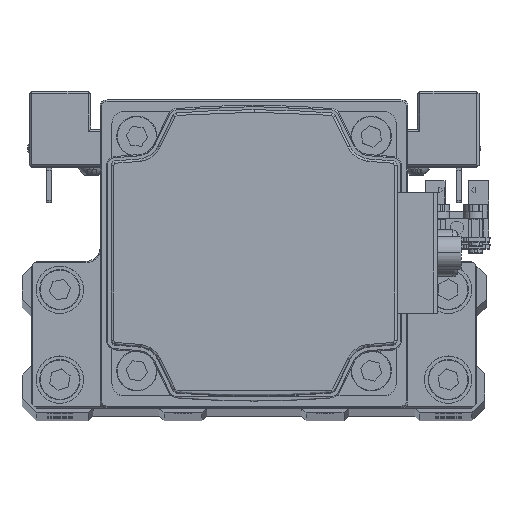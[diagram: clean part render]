
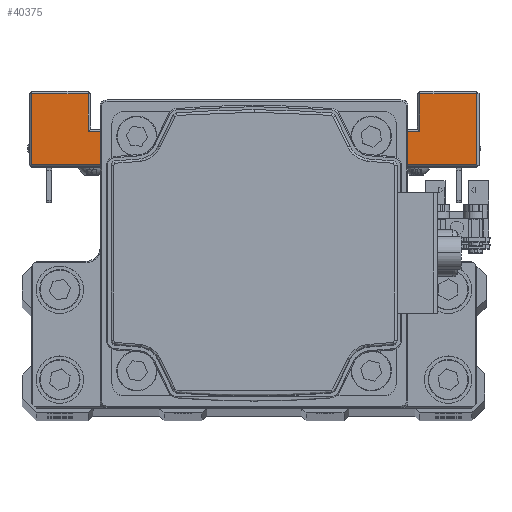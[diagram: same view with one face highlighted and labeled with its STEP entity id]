
A CAD part, top view. The second image highlights one B-rep face of the part: STEP entity #40375.
In plain terms, the highlighted planar face has unit normal (0, 0, 1) as drawn and (1, 0, 0) by its records, which use the part's own axes.
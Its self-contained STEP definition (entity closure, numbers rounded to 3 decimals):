
#250 = CARTESIAN_POINT ( 'NONE',  ( 47., 15., -20. ) ) ;
#1186 = AXIS2_PLACEMENT_3D ( 'NONE', #28574, #41868, #12003 ) ;
#1359 = ORIENTED_EDGE ( 'NONE', *, *, #13754, .T. ) ;
#1775 = LINE ( 'NONE', #15078, #37808 ) ;
#1982 = FACE_OUTER_BOUND ( 'NONE', #41745, .T. ) ;
#2081 = DIRECTION ( 'NONE',  ( 0., 0., -1. ) ) ;
#2100 = CARTESIAN_POINT ( 'NONE',  ( 47., 23., -20. ) ) ;
#2104 = LINE ( 'NONE', #15408, #29459 ) ;
#2394 = ORIENTED_EDGE ( 'NONE', *, *, #26654, .T. ) ;
#2752 = CARTESIAN_POINT ( 'NONE',  ( 47., -7.5, -20. ) ) ;
#3533 = EDGE_CURVE ( 'NONE', #8458, #27978, #1775, .T. ) ;
#4506 = CARTESIAN_POINT ( 'NONE',  ( 47., 7.5, 35. ) ) ;
#4840 = VECTOR ( 'NONE', #17801, 1000. ) ;
#5210 = VERTEX_POINT ( 'NONE', #19231 ) ;
#5326 = VECTOR ( 'NONE', #33854, 1000. ) ;
#5552 = VERTEX_POINT ( 'NONE', #28132 ) ;
#6156 = VECTOR ( 'NONE', #13557, 1000. ) ;
#6367 = LINE ( 'NONE', #19667, #21135 ) ;
#6808 = LINE ( 'NONE', #20103, #18947 ) ;
#7257 = LINE ( 'NONE', #20553, #5326 ) ;
#7314 = CARTESIAN_POINT ( 'NONE',  ( 47., 8., -20. ) ) ;
#7699 = EDGE_CURVE ( 'NONE', #25577, #31165, #18653, .T. ) ;
#7729 = CARTESIAN_POINT ( 'NONE',  ( 47., 7.5, 20. ) ) ;
#8204 = EDGE_CURVE ( 'NONE', #36662, #41285, #25782, .T. ) ;
#8245 = ORIENTED_EDGE ( 'NONE', *, *, #3533, .F. ) ;
#8272 = EDGE_CURVE ( 'NONE', #8458, #15885, #6367, .T. ) ;
#8318 = ORIENTED_EDGE ( 'NONE', *, *, #42398, .T. ) ;
#8458 = VERTEX_POINT ( 'NONE', #7314 ) ;
#8922 = CARTESIAN_POINT ( 'NONE',  ( 47., 15., -35. ) ) ;
#8951 = LINE ( 'NONE', #22247, #33325 ) ;
#9109 = VERTEX_POINT ( 'NONE', #12632 ) ;
#9227 = DIRECTION ( 'NONE',  ( 0., -1., 0. ) ) ;
#10639 = VECTOR ( 'NONE', #2081, 1000. ) ;
#11975 = ORIENTED_EDGE ( 'NONE', *, *, #7699, .T. ) ;
#12003 = DIRECTION ( 'NONE',  ( 0., 0., 1. ) ) ;
#12047 = VERTEX_POINT ( 'NONE', #25296 ) ;
#12084 = VECTOR ( 'NONE', #9227, 1000. ) ;
#12176 = CARTESIAN_POINT ( 'NONE',  ( 47., 8., 20. ) ) ;
#12632 = CARTESIAN_POINT ( 'NONE',  ( 47., 23., 47. ) ) ;
#13557 = DIRECTION ( 'NONE',  ( 0., 0., 1. ) ) ;
#13754 = EDGE_CURVE ( 'NONE', #31151, #27978, #6808, .T. ) ;
#14402 = EDGE_CURVE ( 'NONE', #5552, #9109, #2104, .T. ) ;
#15078 = CARTESIAN_POINT ( 'NONE',  ( 47., 7.5, -20. ) ) ;
#15287 = PLANE ( 'NONE',  #1186 ) ;
#15405 = DIRECTION ( 'NONE',  ( 0., 0., 1. ) ) ;
#15408 = CARTESIAN_POINT ( 'NONE',  ( 47., 23., -20. ) ) ;
#15885 = VERTEX_POINT ( 'NONE', #17333 ) ;
#17333 = CARTESIAN_POINT ( 'NONE',  ( 47., 8., -47. ) ) ;
#17623 = EDGE_CURVE ( 'NONE', #41285, #12047, #30121, .T. ) ;
#17801 = DIRECTION ( 'NONE',  ( 0., 1., 0. ) ) ;
#17889 = EDGE_CURVE ( 'NONE', #9109, #25577, #8951, .T. ) ;
#18653 = LINE ( 'NONE', #31955, #10639 ) ;
#18881 = VECTOR ( 'NONE', #15405, 1000. ) ;
#18947 = VECTOR ( 'NONE', #33424, 1000. ) ;
#19231 = CARTESIAN_POINT ( 'NONE',  ( 47., 23., -47. ) ) ;
#19667 = CARTESIAN_POINT ( 'NONE',  ( 47., 8., -47. ) ) ;
#20103 = CARTESIAN_POINT ( 'NONE',  ( 47., -7.5, -20. ) ) ;
#20553 = CARTESIAN_POINT ( 'NONE',  ( 47., 7.5, -47. ) ) ;
#21023 = DIRECTION ( 'NONE',  ( 0., -1., 0. ) ) ;
#21135 = VECTOR ( 'NONE', #32990, 1000. ) ;
#21387 = ORIENTED_EDGE ( 'NONE', *, *, #17889, .T. ) ;
#21471 = ORIENTED_EDGE ( 'NONE', *, *, #28219, .T. ) ;
#21987 = CARTESIAN_POINT ( 'NONE',  ( 47., -7.5, 20. ) ) ;
#22247 = CARTESIAN_POINT ( 'NONE',  ( 47., 7.5, 47. ) ) ;
#24607 = ORIENTED_EDGE ( 'NONE', *, *, #17623, .T. ) ;
#25114 = EDGE_CURVE ( 'NONE', #12047, #5552, #34387, .T. ) ;
#25296 = CARTESIAN_POINT ( 'NONE',  ( 47., 15., 35. ) ) ;
#25577 = VERTEX_POINT ( 'NONE', #36931 ) ;
#25782 = LINE ( 'NONE', #39083, #12084 ) ;
#25842 = ORIENTED_EDGE ( 'NONE', *, *, #8272, .T. ) ;
#26654 = EDGE_CURVE ( 'NONE', #5210, #36662, #31977, .T. ) ;
#27978 = VERTEX_POINT ( 'NONE', #2752 ) ;
#28132 = CARTESIAN_POINT ( 'NONE',  ( 47., 23., 35. ) ) ;
#28219 = EDGE_CURVE ( 'NONE', #31165, #31151, #37600, .T. ) ;
#28367 = DIRECTION ( 'NONE',  ( 0., -1., 0. ) ) ;
#28574 = CARTESIAN_POINT ( 'NONE',  ( 47., 7.5, -20. ) ) ;
#28700 = DIRECTION ( 'NONE',  ( 0., 0., 1. ) ) ;
#29168 = ORIENTED_EDGE ( 'NONE', *, *, #8204, .T. ) ;
#29459 = VECTOR ( 'NONE', #28700, 1000. ) ;
#30121 = LINE ( 'NONE', #250, #6156 ) ;
#31151 = VERTEX_POINT ( 'NONE', #21987 ) ;
#31165 = VERTEX_POINT ( 'NONE', #12176 ) ;
#31905 = ORIENTED_EDGE ( 'NONE', *, *, #14402, .T. ) ;
#31955 = CARTESIAN_POINT ( 'NONE',  ( 47., 8., 20. ) ) ;
#31977 = LINE ( 'NONE', #2100, #18881 ) ;
#32990 = DIRECTION ( 'NONE',  ( 0., 0., -1. ) ) ;
#33325 = VECTOR ( 'NONE', #35543, 1000. ) ;
#33424 = DIRECTION ( 'NONE',  ( 0., 0., -1. ) ) ;
#33854 = DIRECTION ( 'NONE',  ( 0., 1., 0. ) ) ;
#34387 = LINE ( 'NONE', #4506, #4840 ) ;
#35543 = DIRECTION ( 'NONE',  ( 0., -1., 0. ) ) ;
#36662 = VERTEX_POINT ( 'NONE', #40013 ) ;
#36931 = CARTESIAN_POINT ( 'NONE',  ( 47., 8., 47. ) ) ;
#37600 = LINE ( 'NONE', #7729, #39070 ) ;
#37808 = VECTOR ( 'NONE', #28367, 1000. ) ;
#39070 = VECTOR ( 'NONE', #21023, 1000. ) ;
#39083 = CARTESIAN_POINT ( 'NONE',  ( 47., 7.5, -35. ) ) ;
#40013 = CARTESIAN_POINT ( 'NONE',  ( 47., 23., -35. ) ) ;
#40375 = ADVANCED_FACE ( 'NONE', ( #1982 ), #15287, .F. ) ;
#40769 = ORIENTED_EDGE ( 'NONE', *, *, #25114, .T. ) ;
#41285 = VERTEX_POINT ( 'NONE', #8922 ) ;
#41745 = EDGE_LOOP ( 'NONE', ( #8245, #25842, #8318, #2394, #29168, #24607, #40769, #31905, #21387, #11975, #21471, #1359 ) ) ;
#41868 = DIRECTION ( 'NONE',  ( -1., 0., 0. ) ) ;
#42398 = EDGE_CURVE ( 'NONE', #15885, #5210, #7257, .T. ) ;
